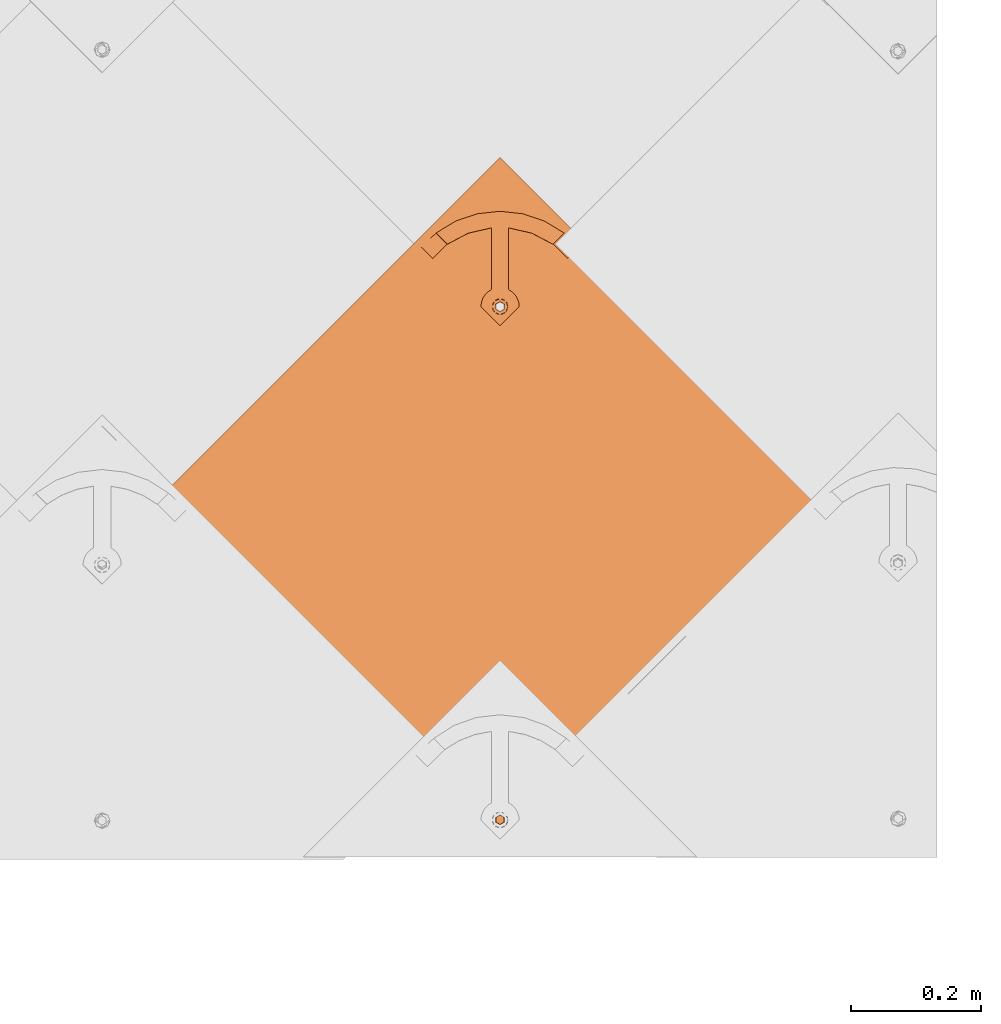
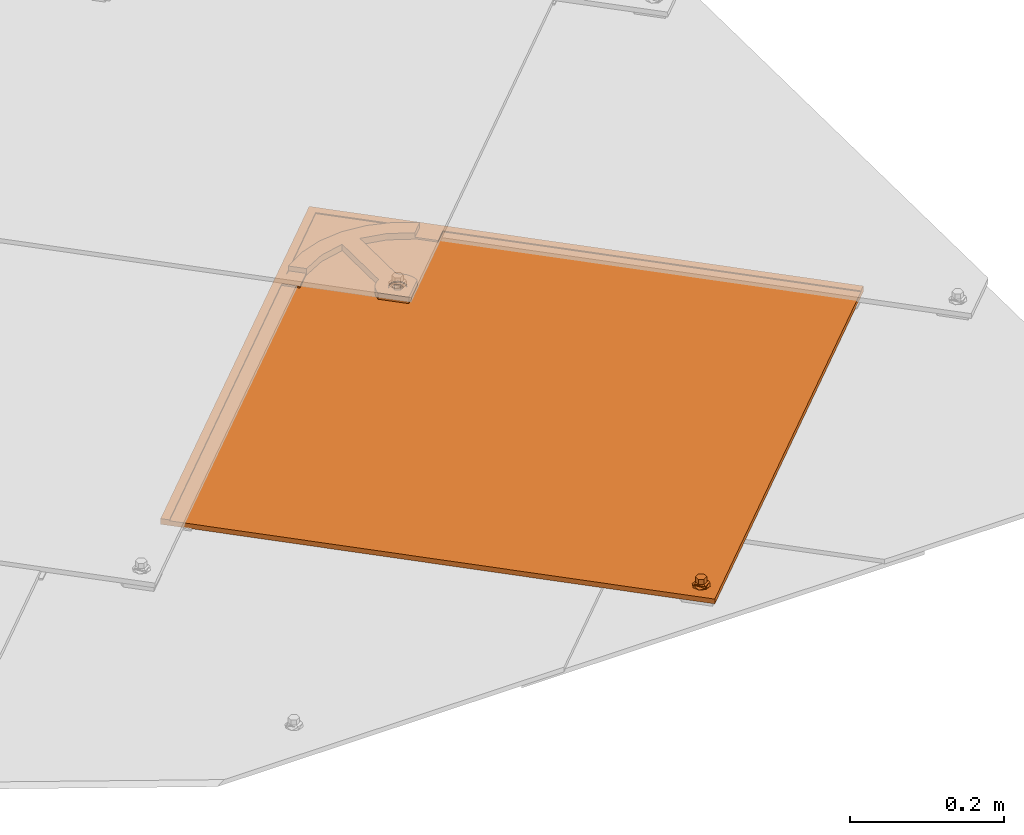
# One storey, part 82 of 151: 1 proxy.
"""IFC2X3 building model written with IfcOpenShell, lengths in millimetres."""

from ifc_helpers import new_model, entity, si_unit, converted_unit, derived_unit, direction, frame, origin, place, context, subcontext, project, spatial, faceted_brep, source, transform, mapped, material, material_list, type_object, type_shapes, element, save


model = new_model("IFC2X3")

# Units and contexts
model_context = context("Model", 3, precision=0.01, world=origin(), true_north=direction((6.12303176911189e-17, 1.0)))
body_context = subcontext(model_context, "Body", "Model", "MODEL_VIEW")
ifc_project = project(units=[si_unit("LENGTHUNIT", "METRE", prefix="MILLI"), si_unit("AREAUNIT", "SQUARE_METRE"), si_unit("VOLUMEUNIT", "CUBIC_METRE"), converted_unit("PLANEANGLEUNIT", "DEGREE", entity("IfcRatioMeasure", 0.0174532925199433), si_unit("PLANEANGLEUNIT", "RADIAN"), dimensions=[0, 0, 0, 0, 0, 0, 0]), si_unit("MASSUNIT", "GRAM", prefix="KILO"), derived_unit("MASSDENSITYUNIT", [(si_unit("MASSUNIT", "GRAM", prefix="KILO"), 1), (si_unit("LENGTHUNIT", "METRE"), -3)]), si_unit("TIMEUNIT", "SECOND"), si_unit("FREQUENCYUNIT", "HERTZ"), si_unit("THERMODYNAMICTEMPERATUREUNIT", "DEGREE_CELSIUS"), derived_unit("THERMALTRANSMITTANCEUNIT", [(si_unit("MASSUNIT", "GRAM", prefix="KILO"), 1), (si_unit("THERMODYNAMICTEMPERATUREUNIT", "KELVIN"), -1), (si_unit("TIMEUNIT", "SECOND"), -3)]), derived_unit("VOLUMETRICFLOWRATEUNIT", [(si_unit("LENGTHUNIT", "METRE"), 3), (si_unit("TIMEUNIT", "SECOND"), -1)]), si_unit("ELECTRICCURRENTUNIT", "AMPERE"), si_unit("ELECTRICVOLTAGEUNIT", "VOLT"), si_unit("POWERUNIT", "WATT"), si_unit("FORCEUNIT", "NEWTON", prefix="KILO"), si_unit("ILLUMINANCEUNIT", "LUX"), si_unit("LUMINOUSFLUXUNIT", "LUMEN"), si_unit("LUMINOUSINTENSITYUNIT", "CANDELA"), derived_unit("USERDEFINED", [(si_unit("MASSUNIT", "GRAM", prefix="KILO"), -1), (si_unit("LENGTHUNIT", "METRE"), -2), (si_unit("TIMEUNIT", "SECOND"), 3), (si_unit("LUMINOUSFLUXUNIT", "LUMEN"), 1)]), derived_unit("LINEARVELOCITYUNIT", [(si_unit("LENGTHUNIT", "METRE"), 1), (si_unit("TIMEUNIT", "SECOND"), -1)]), si_unit("PRESSUREUNIT", "PASCAL"), derived_unit("USERDEFINED", [(si_unit("LENGTHUNIT", "METRE"), -2), (si_unit("MASSUNIT", "GRAM", prefix="KILO"), 1), (si_unit("TIMEUNIT", "SECOND"), -2)])], contexts=[model_context])

# Site, building, storey
site_placement = place(None, origin())
site = spatial("IfcSite", under=ifc_project, at=site_placement, Name="Default", CompositionType="ELEMENT")
building_placement = place(site_placement, origin())
building = spatial("IfcBuilding", under=site, at=building_placement, CompositionType="ELEMENT")
storey_placement = place(building_placement, origin())
storey = spatial("IfcBuildingStorey", under=building, at=storey_placement, Name="Level 1", CompositionType="ELEMENT", Elevation=0.0)

# Proxy
ifc_material_1 = material(Name="Rubber - Sunstyle - Black")
ifc_material_2 = material(Name="Glass - Sunstyle - Tainted Black")
ifc_material_list_1 = material_list([ifc_material_1, ifc_material_2])
ifc_material_list_2 = material_list([ifc_material_1, ifc_material_2])
building_element_proxy_type = type_object("IfcBuildingElementProxyType", Name="Non PV Shingle - Black", PredefinedType="NOTDEFINED", material=ifc_material_list_2)
shared_shape = source(origin(), body_context, "Body", "Brep", [
    faceted_brep([(0.0, -485.159313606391, 4.00636906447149), (-5.77420283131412, -488.492583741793, 4.062193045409), (-5.77420283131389, -488.124274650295, 26.0540623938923), (0.0, -484.791004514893, 25.9982384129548), (-5.77420283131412, -495.159124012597, 4.17384100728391), (-5.7742028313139, -494.790814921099, 26.1657103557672), (0.0, -498.492394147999, 4.2296649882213), (0.0, -498.1240850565, 26.2215343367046), (5.77420283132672, -495.159124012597, 4.17384100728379), (5.77420283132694, -494.790814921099, 26.1657103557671), (5.77420283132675, -488.492583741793, 4.06219304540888), (5.77420283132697, -488.124274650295, 26.0540623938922), (-8.60370416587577, -500.060042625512, 26.2539568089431), (0.0, -503.623313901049, 26.3136327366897), (-12.1674751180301, -491.457544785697, 26.1098863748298), (-8.60370416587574, -482.855046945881, 25.9658159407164), (0.0, -479.291775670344, 25.9061400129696), (8.60370416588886, -482.855046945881, 25.9658159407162), (12.1674751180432, -491.457544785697, 26.1098863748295), (8.60370416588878, -500.060042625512, 26.2539568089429), (-11.3242446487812, -489.162467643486, 28.4227283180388), (-9.75647455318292, -491.386529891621, 30.3502110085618), (0.0, -484.073454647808, 30.9829114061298), (0.0, -482.832957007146, 30.4025647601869), (0.0, -480.675406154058, 29.3931896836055), (0.0, -503.067269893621, 27.5886907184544), (0.0, -502.123693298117, 29.7523951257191), (0.0, -498.67431759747, 31.227439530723), (0.0, -479.804811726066, 27.19910242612), (-6.32324569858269, -495.024101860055, 31.1663074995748), (-6.32324569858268, -487.723670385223, 31.0440434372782), (11.3242446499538, -493.673887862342, 28.4982833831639), (9.84888015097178, -492.460936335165, 30.2713428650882), (6.32324569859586, -487.723670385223, 31.0440434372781), (6.32324569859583, -495.024101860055, 31.1663074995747), (-6.32324569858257, -494.890073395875, 39.1691956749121), (0.0, -498.54028913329, 39.2303277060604), (0.0, -491.239857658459, 39.1080636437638), (-6.32324569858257, -487.589641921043, 39.0469316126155), (6.32324569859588, -494.890073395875, 39.169195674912), (6.32324569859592, -487.589641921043, 39.0469316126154), (0.0, -483.939426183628, 38.9857995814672), (0.0, -491.825853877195, 4.11801702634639)], [[[0, 1, 2, 3]], [[1, 4, 5, 2]], [[4, 6, 7, 5]], [[6, 8, 9, 7]], [[8, 10, 11, 9]], [[10, 0, 3, 11]], [[12, 7, 13]], [[7, 12, 5]], [[14, 5, 12]], [[5, 14, 2]], [[15, 2, 14]], [[3, 2, 15]], [[15, 16, 3]], [[16, 17, 3]], [[11, 3, 17]], [[11, 17, 18]], [[9, 11, 18]], [[18, 19, 9]], [[7, 9, 19]], [[19, 13, 7]], [[20, 14, 12]], [[21, 22, 23, 24]], [[24, 20, 21]], [[25, 20, 12]], [[26, 27, 21]], [[15, 14, 20]], [[12, 13, 25]], [[20, 28, 15]], [[28, 20, 24]], [[21, 27, 29]], [[21, 29, 30]], [[26, 21, 20]], [[20, 25, 26]], [[15, 28, 16]], [[21, 30, 22]], [[31, 18, 17]], [[28, 31, 17]], [[32, 27, 26]], [[26, 31, 32]], [[26, 25, 31]], [[25, 19, 31]], [[17, 16, 28]], [[31, 19, 18]], [[24, 31, 28]], [[33, 34, 32]], [[23, 22, 33]], [[24, 32, 31]], [[27, 32, 34]], [[32, 23, 33]], [[19, 25, 13]], [[32, 24, 23]], [[35, 36, 37]], [[37, 38, 35]], [[36, 39, 37]], [[40, 37, 39]], [[37, 40, 41]], [[37, 41, 38]], [[42, 6, 4]], [[4, 1, 42]], [[1, 0, 42]], [[42, 8, 6]], [[0, 10, 42]], [[8, 42, 10]], [[22, 30, 38, 41]], [[30, 29, 35, 38]], [[29, 27, 36, 35]], [[27, 34, 39, 36]], [[34, 33, 40, 39]], [[33, 22, 41, 40]]]),
    faceted_brep([(0.0, 284.789208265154, 20.3195200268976), (0.0, 289.288576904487, 20.2441667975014), (-8.60370416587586, 288.352479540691, 20.259844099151), (8.60370416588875, 288.352479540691, 20.2598440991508), (6.64022859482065, 293.121777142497, 20.1799702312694), (12.1674751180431, 296.954977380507, 20.1157736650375), (6.64022859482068, 300.788177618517, 20.0515770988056), (8.60370416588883, 305.557475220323, 19.9717032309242), (0.0, 304.621377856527, 19.9873805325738), (0.0, 309.12074649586, 19.9120273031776), (-8.60370416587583, 305.557475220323, 19.9717032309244), (-6.64022859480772, 300.788177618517, 20.0515770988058), (-12.1674751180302, 296.954977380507, 20.1157736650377), (-6.64022859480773, 293.121777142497, 20.1799702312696), (-6.6402282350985, 300.520254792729, 4.05382046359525), (0.0, 304.35345482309, 3.9896239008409), (-6.64022823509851, 292.853854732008, 4.18221358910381), (0.0, 289.020654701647, 4.24641015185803), (6.64022823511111, 292.853854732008, 4.18221358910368), (6.64022823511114, 300.520254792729, 4.05382046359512), (-8.60370416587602, 288.084556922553, 4.26208746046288), (0.0, 284.521285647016, 4.32176338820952), (-12.1674751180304, 296.687054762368, 4.11801702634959), (-8.603704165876, 305.289552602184, 3.97394659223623), (0.0, 308.852823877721, 3.91427066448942), (8.60370416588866, 305.289552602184, 3.97394659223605), (12.167475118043, 296.687054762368, 4.11801702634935), (8.60370416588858, 288.084556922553, 4.26208746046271)], [[[0, 1, 2]], [[1, 0, 3]], [[3, 4, 1]], [[4, 3, 5]], [[6, 4, 5]], [[5, 7, 6]], [[7, 8, 6]], [[8, 7, 9]], [[8, 9, 10]], [[10, 11, 8]], [[12, 11, 10]], [[2, 13, 12]], [[12, 13, 11]], [[13, 2, 1]], [[8, 11, 14, 15]], [[11, 13, 16, 14]], [[13, 1, 17, 16]], [[1, 4, 18, 17]], [[4, 6, 19, 18]], [[6, 8, 15, 19]], [[20, 17, 21]], [[17, 20, 16]], [[22, 16, 20]], [[14, 16, 22]], [[23, 14, 22]], [[15, 14, 23]], [[23, 24, 15]], [[24, 25, 15]], [[19, 15, 25]], [[19, 25, 26]], [[26, 18, 19]], [[26, 27, 18]], [[17, 18, 27]], [[27, 21, 17]], [[24, 23, 10, 9]], [[10, 23, 22, 12]], [[20, 21, 0, 2]], [[20, 2, 12, 22]], [[21, 27, 3, 0]], [[3, 27, 26, 5]], [[25, 24, 9, 7]], [[25, 7, 5, 26]]]),
    faceted_brep([(518.347125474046, -8.50591218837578, 16.4460771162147), (526.831811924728, -0.0212257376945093, 16.3039797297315), (526.831811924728, 0.00389200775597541, 17.8037694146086), (518.347125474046, -8.48079444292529, 17.9458668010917), (0.000322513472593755, 509.695546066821, 7.76749207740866), (-518.346480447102, -8.50591218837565, 16.4460771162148), (-526.831166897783, -0.021225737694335, 16.3039797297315), (0.000322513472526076, 526.662539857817, 7.48333714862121), (0.000322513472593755, 526.687657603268, 8.98312683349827), (-526.831166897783, 0.00389200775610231, 17.8037694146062), (-518.346480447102, -8.48079444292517, 17.9458668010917), (0.000322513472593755, 509.720663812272, 9.26728176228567)], [[[0, 1, 2, 3]], [[1, 0, 4, 5, 6, 7]], [[2, 1, 7, 8]], [[3, 2, 8, 9, 10, 11]], [[0, 3, 11, 4]], [[5, 10, 9, 6]], [[8, 7, 6, 9]], [[4, 11, 10, 5]]]),
    faceted_brep([(0.000322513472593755, 526.662539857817, 7.48333714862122), (-3.10582854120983, 308.054627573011, 11.1444757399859), (0.0, 308.46346032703, 11.1376288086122), (-6.0, 306.855990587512, 11.1645499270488), (3.10582854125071, 308.054627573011, 11.1444757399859), (6.0, 306.855990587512, 11.1645499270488), (8.4852813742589, 304.949234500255, 11.1964833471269), (10.3923048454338, 302.464301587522, 11.2380997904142), (-8.48528137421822, 304.949234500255, 11.1964833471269), (-10.3923048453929, 302.464301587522, 11.2380997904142), (-11.5911099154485, 299.570535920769, 11.2865631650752), (-526.831166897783, -0.0212257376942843, 16.3039797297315), (11.5911099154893, 299.570535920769, 11.2865631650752), (526.831811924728, -0.021225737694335, 16.3039797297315), (-12.0, 296.465142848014, 11.3385707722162), (-11.5911099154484, 293.359749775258, 11.3905783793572), (-10.392304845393, 290.465984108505, 11.4390417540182), (-8.48528137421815, 287.981051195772, 11.4806581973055), (-6.0, 286.074295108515, 11.5125916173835), (-3.10582854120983, 284.875658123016, 11.5326658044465), (-2.07055236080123, -483.623303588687, 24.4031112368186), (-4.0, -484.422394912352, 24.4164940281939), (-5.65685424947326, -485.693565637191, 24.4377829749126), (-6.92820323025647, -487.350187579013, 24.4655272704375), (-7.72740661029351, -489.279364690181, 24.4978361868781), (-8.0, -491.349626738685, 24.5325079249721), (-7.72740661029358, -493.419888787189, 24.5671796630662), (0.000322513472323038, -526.704991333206, 25.1246223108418), (-6.92820323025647, -495.349065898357, 24.5994885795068), (-5.65685424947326, -497.005687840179, 24.6272328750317), (-4.0, -498.276858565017, 24.6485218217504), (-2.0705523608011, -499.075949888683, 24.6619046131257), (0.0, -499.348505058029, 24.6664692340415), (2.07055236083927, -499.075949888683, 24.6619046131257), (4.0, -498.276858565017, 24.6485218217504), (5.65685424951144, -497.005687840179, 24.6272328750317), (6.92820323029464, -495.349065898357, 24.5994885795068), (7.72740661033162, -493.419888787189, 24.5671796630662), (12.0, 296.465142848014, 11.3385707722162), (11.5911099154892, 293.359749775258, 11.3905783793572), (10.3923048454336, 290.465984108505, 11.4390417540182), (8.4852813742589, 287.981051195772, 11.4806581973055), (6.0, 286.074295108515, 11.5125916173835), (3.10582854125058, 284.875658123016, 11.5326658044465), (2.07055236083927, -483.623303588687, 24.4031112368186), (4.0, -484.422394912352, 24.4164940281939), (5.65685424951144, -485.69356563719, 24.4377829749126), (8.0, -491.349626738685, 24.5325079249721), (7.72740661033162, -489.279364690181, 24.4978361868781), (6.92820323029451, -487.350187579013, 24.4655272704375), (0.0, 284.466825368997, 11.5395127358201), (0.0, -483.350748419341, 24.3985466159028), (-526.831166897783, -0.146814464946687, 8.80503130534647), (-6.92820323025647, -487.475776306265, 16.9665788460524), (-7.72740661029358, -489.404953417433, 16.9988877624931), (-5.65685424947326, -485.819154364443, 16.9388345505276), (-8.0, -491.475215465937, 17.0335595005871), (-7.72740661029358, -493.545477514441, 17.0682312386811), (0.000322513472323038, -526.830580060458, 17.6256738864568), (-4.0, -484.547983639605, 16.9175456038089), (-2.07055236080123, -483.748892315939, 16.9041628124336), (-3.10582854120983, 284.750069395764, 4.03371738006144), (-6.0, 285.948706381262, 4.01364319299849), (-8.48528137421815, 287.85546246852, 3.98170977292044), (-10.392304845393, 290.340395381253, 3.94009332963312), (-11.5911099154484, 293.234161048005, 3.89162995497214), (-12.0, 296.339554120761, 3.83962234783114), (-11.5911099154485, 299.444947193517, 3.78761474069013), (0.000322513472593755, 526.536951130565, -0.0156112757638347), (-10.3923048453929, 302.338712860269, 3.73915136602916), (-8.48528137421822, 304.823645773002, 3.69753492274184), (-6.0, 306.73040186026, 3.66560150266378), (-3.10582854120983, 307.929038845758, 3.64552731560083), (0.0, 308.337871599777, 3.63868038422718), (3.10582854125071, 307.929038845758, 3.64552731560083), (6.0, 306.73040186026, 3.66560150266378), (8.4852813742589, 304.823645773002, 3.69753492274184), (10.3923048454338, 302.338712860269, 3.73915136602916), (11.5911099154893, 299.444947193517, 3.78761474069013), (526.831811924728, -0.146814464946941, 8.80503130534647), (7.72740661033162, -493.545477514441, 17.0682312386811), (8.0, -491.475215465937, 17.0335595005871), (7.72740661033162, -489.404953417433, 16.9988877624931), (6.92820323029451, -487.475776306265, 16.9665788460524), (5.65685424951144, -485.819154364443, 16.9388345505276), (4.0, -484.547983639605, 16.9175456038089), (2.07055236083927, -483.748892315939, 16.9041628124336), (3.10582854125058, 284.750069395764, 4.03371738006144), (6.0, 285.948706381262, 4.01364319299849), (12.0, 296.339554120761, 3.83962234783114), (11.5911099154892, 293.234161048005, 3.89162995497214), (10.3923048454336, 290.340395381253, 3.94009332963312), (8.4852813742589, 287.85546246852, 3.98170977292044), (0.0, 284.341236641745, 4.04056431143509), (0.0, -483.476337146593, 16.8995981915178), (-6.92820323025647, -495.474654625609, 17.1005401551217), (-5.65685424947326, -497.131276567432, 17.1282844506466), (-4.0, -498.40244729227, 17.1495733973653), (-2.0705523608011, -499.201538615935, 17.1629561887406), (0.0, -499.474093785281, 17.1675208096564), (2.07055236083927, -499.201538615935, 17.1629561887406), (4.0, -498.40244729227, 17.1495733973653), (5.65685424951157, -497.131276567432, 17.1282844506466), (6.92820323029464, -495.474654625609, 17.1005401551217)], [[[0, 1, 2]], [[1, 0, 3]], [[0, 2, 4]], [[4, 5, 0]], [[5, 6, 0]], [[0, 6, 7]], [[8, 3, 0]], [[9, 8, 0]], [[9, 0, 10]], [[10, 0, 11]], [[12, 0, 7]], [[12, 13, 0]], [[11, 14, 10]], [[14, 11, 15]], [[16, 15, 11]], [[16, 11, 17]], [[18, 17, 11]], [[11, 19, 18]], [[19, 11, 20]], [[21, 20, 11]], [[11, 22, 21]], [[22, 11, 23]], [[23, 11, 24]], [[25, 24, 11]], [[25, 11, 26]], [[26, 11, 27]], [[27, 28, 26]], [[29, 28, 27]], [[30, 29, 27]], [[31, 30, 27]], [[27, 32, 31]], [[32, 27, 33]], [[34, 33, 27]], [[34, 27, 35]], [[36, 35, 27]], [[37, 36, 27]], [[37, 27, 13]], [[12, 38, 13]], [[39, 13, 38]], [[13, 39, 40]], [[13, 40, 41]], [[41, 42, 13]], [[42, 43, 13]], [[13, 43, 44]], [[45, 13, 44]], [[46, 13, 45]], [[47, 37, 13]], [[48, 47, 13]], [[49, 48, 13]], [[46, 49, 13]], [[20, 50, 19]], [[51, 50, 20]], [[44, 50, 51]], [[43, 50, 44]], [[52, 53, 54]], [[53, 52, 55]], [[52, 54, 56]], [[56, 57, 52]], [[52, 57, 58]], [[59, 55, 52]], [[60, 59, 52]], [[60, 52, 61]], [[61, 52, 62]], [[63, 62, 52]], [[64, 63, 52]], [[65, 64, 52]], [[66, 65, 52]], [[66, 52, 67]], [[52, 68, 67]], [[69, 67, 68]], [[70, 69, 68]], [[68, 71, 70]], [[71, 68, 72]], [[72, 68, 73]], [[74, 73, 68]], [[74, 68, 75]], [[76, 75, 68]], [[68, 77, 76]], [[77, 68, 78]], [[68, 79, 78]], [[58, 80, 79]], [[81, 79, 80]], [[81, 82, 79]], [[82, 83, 79]], [[84, 79, 83]], [[79, 84, 85]], [[85, 86, 79]], [[87, 79, 86]], [[87, 88, 79]], [[89, 78, 79]], [[79, 90, 89]], [[90, 79, 91]], [[92, 91, 79]], [[92, 79, 88]], [[93, 60, 61]], [[93, 86, 94]], [[94, 60, 93]], [[87, 86, 93]], [[58, 57, 95]], [[96, 58, 95]], [[96, 97, 58]], [[97, 98, 58]], [[99, 58, 98]], [[58, 99, 100]], [[58, 100, 101]], [[101, 102, 58]], [[102, 103, 58]], [[103, 80, 58]], [[11, 0, 68, 52]], [[27, 11, 52, 58]], [[13, 27, 58, 79]], [[0, 13, 79, 68]], [[25, 56, 54, 24]], [[24, 54, 53, 23]], [[21, 22, 55, 59]], [[55, 22, 23, 53]], [[20, 21, 59, 60]], [[20, 60, 94, 51]], [[51, 94, 86, 44]], [[44, 86, 85, 45]], [[49, 46, 84, 83]], [[84, 46, 45, 85]], [[48, 49, 83, 82]], [[48, 82, 81, 47]], [[47, 81, 80, 37]], [[37, 80, 103, 36]], [[34, 35, 102, 101]], [[102, 35, 36, 103]], [[33, 34, 101, 100]], [[33, 100, 99, 32]], [[32, 99, 98, 31]], [[31, 98, 97, 30]], [[28, 29, 96, 95]], [[96, 29, 30, 97]], [[26, 28, 95, 57]], [[26, 57, 56, 25]], [[14, 66, 67, 10]], [[10, 67, 69, 9]], [[3, 8, 70, 71]], [[70, 8, 9, 69]], [[1, 3, 71, 72]], [[1, 72, 73, 2]], [[2, 73, 74, 4]], [[4, 74, 75, 5]], [[7, 6, 76, 77]], [[76, 6, 5, 75]], [[12, 7, 77, 78]], [[12, 78, 89, 38]], [[38, 89, 90, 39]], [[39, 90, 91, 40]], [[42, 41, 92, 88]], [[40, 91, 92, 41]], [[87, 43, 42, 88]], [[43, 87, 93, 50]], [[50, 93, 61, 19]], [[19, 61, 62, 18]], [[16, 17, 63, 64]], [[63, 17, 18, 62]], [[15, 16, 64, 65]], [[15, 65, 66, 14]]]),
    faceted_brep([(-103.640919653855, 371.082989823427, 12.5892580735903), (-81.5635806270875, 393.15723338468, 12.2195694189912), (-98.1147183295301, 409.705441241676, 11.9424281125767), (-106.2656930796, 403.014562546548, 12.0544836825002), (-113.962762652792, 395.806279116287, 12.1752044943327), (-121.16572423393, 388.605337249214, 12.295802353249), (121.446435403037, 388.886009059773, 12.2911017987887), (110.715435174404, 399.614000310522, 12.1114346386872), (104.744439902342, 405.287275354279, 12.0164213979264), (98.4920378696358, 410.648923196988, 11.9266271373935), (98.074476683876, 410.231479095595, 11.933618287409), (98.234751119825, 410.108922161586, 11.9356708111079), (98.3948723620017, 409.986165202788, 11.9377266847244), (81.6917048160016, 393.285339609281, 12.2174239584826), (103.769043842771, 371.211096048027, 12.5871126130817), (-23.2046504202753, 315.000563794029, 21.029550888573), (-8.48528137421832, 305.451589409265, 21.1894724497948), (-18.7041061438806, 319.633569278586, 20.951959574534), (-10.392304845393, 302.966656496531, 21.2310888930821), (-26.5842195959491, 309.496413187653, 21.1217317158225), (-11.5911099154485, 300.072890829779, 21.2795522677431), (-28.6795527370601, 303.387013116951, 21.2240489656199), (-12.0, 296.967497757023, 21.3315598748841), (-29.3894280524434, 296.967497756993, 21.3315598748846), (-11.5911099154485, 293.862104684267, 21.3835674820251), (-10.392304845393, 290.968339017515, 21.4320308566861), (-8.48528137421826, 288.483406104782, 21.4736472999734), (0.0, 267.58219039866, 21.8236906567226), (-6.0, 286.576650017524, 21.5055807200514), (-3.10582854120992, 285.378013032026, 21.5256549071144), (0.0, 284.969180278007, 21.532501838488), (3.10582854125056, 285.378013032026, 21.5256549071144), (6.0, 286.576650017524, 21.5055807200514), (8.48528137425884, 288.483406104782, 21.4736472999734), (29.389428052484, 296.967497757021, 21.3315598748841), (10.3923048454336, 290.968339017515, 21.4320308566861), (11.5911099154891, 293.862104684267, 21.3835674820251), (12.0, 296.967497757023, 21.3315598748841), (28.6795527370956, 303.387013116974, 21.2240489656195), (11.5911099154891, 300.072890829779, 21.2795522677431), (26.5842195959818, 309.49641318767, 21.1217317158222), (10.3923048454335, 302.966656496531, 21.2310888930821), (23.2046504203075, 315.000563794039, 21.0295508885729), (8.48528137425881, 305.451589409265, 21.1894724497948), (18.7041061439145, 319.633569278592, 20.9519595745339), (6.0, 307.358345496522, 21.1575390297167), (13.3000000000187, 323.171617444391, 20.8927060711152), (3.10582854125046, 308.55698248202, 21.1374648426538), (0.0, 308.965815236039, 21.1306179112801), (-13.2999999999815, 323.171617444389, 20.8927060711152), (-13.2999999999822, 418.050603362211, 19.3037191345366), (13.3000000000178, 418.050603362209, 19.3037191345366), (0.0, 443.522216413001, 18.8771329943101), (34.9852699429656, 439.689674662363, 18.9413185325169), (48.8881158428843, 409.917561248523, 19.4399273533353), (68.3106161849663, 428.373889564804, 19.1308297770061), (81.1868897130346, 392.906184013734, 19.7248255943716), (98.3948723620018, 410.11175393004, 19.4366751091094), (-34.9852699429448, 439.689674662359, 18.941318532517), (-48.8881158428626, 409.917561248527, 19.4399273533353), (-68.3106161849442, 428.373889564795, 19.1308297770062), (-81.1868897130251, 392.906184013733, 19.7248255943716), (-98.3948723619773, 410.111753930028, 19.4366751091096), (-6.0, 307.358345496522, 21.1575390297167), (-3.10582854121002, 308.55698248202, 21.1374648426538), (0.0, 267.414738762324, 11.8250927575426), (0.0, 284.80172864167, 11.533903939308), (3.10582854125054, 285.210561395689, 11.5270570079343), (-3.10582854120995, 285.210561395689, 11.5270570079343), (6.0, 286.409198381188, 11.5069828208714), (8.48528137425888, 288.315954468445, 11.4750494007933), (29.389428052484, 296.800046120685, 11.332961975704), (-6.0, 286.409198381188, 11.5069828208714), (-8.48528137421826, 288.315954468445, 11.4750494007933), (-29.3894280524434, 296.800046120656, 11.3329619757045), (-10.392304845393, 290.800887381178, 11.433432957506), (-11.5911099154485, 293.694653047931, 11.384969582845), (-12.0, 296.800046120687, 11.332961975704), (-28.6795527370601, 303.219561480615, 11.2254510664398), (-11.5911099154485, 299.905439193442, 11.280954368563), (-26.5842195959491, 309.328961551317, 11.1231338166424), (-10.392304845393, 302.799204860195, 11.232490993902), (-23.2046504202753, 314.833112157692, 11.030952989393), (-8.48528137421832, 305.284137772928, 11.1908745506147), (-18.7041061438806, 319.466117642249, 10.9533616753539), (-6.0, 307.190893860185, 11.1589411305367), (-13.2999999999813, 323.004165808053, 10.8941081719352), (-3.10582854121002, 308.389530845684, 11.1388669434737), (0.0, 308.798363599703, 11.1320200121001), (13.3000000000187, 323.004165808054, 10.8941081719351), (13.3000000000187, 417.883151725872, 9.30512123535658), (-13.2999999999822, 417.883151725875, 9.30512123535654), (-0.199443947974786, 443.35464169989, 8.87853715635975), (-35.1150635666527, 439.493384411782, 8.94320360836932), (-48.8881158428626, 409.75010961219, 9.44132945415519), (-68.3708539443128, 428.178324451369, 9.13270270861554), (-81.5627248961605, 393.11622608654, 9.71990561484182), (-81.1868897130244, 392.738732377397, 9.72622769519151), (-98.1143736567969, 409.663842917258, 9.44277420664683), (-106.2656930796, 402.972699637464, 9.5548342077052), (-103.640919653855, 371.041126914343, 10.0896085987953), (-113.962762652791, 395.764416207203, 9.67555501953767), (-121.16572423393, 388.56347434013, 9.79615287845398), (-98.3948723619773, 409.944302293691, 9.43807720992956), (34.7256001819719, 439.579582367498, 8.94176000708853), (48.8881158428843, 409.750109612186, 9.44132945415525), (68.0092206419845, 428.346649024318, 9.12988369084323), (81.6917048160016, 393.243476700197, 9.71777448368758), (98.0744766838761, 410.189616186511, 9.43396881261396), (104.744439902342, 405.245412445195, 9.51677192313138), (98.4920378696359, 410.607060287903, 9.42697766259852), (110.715435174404, 399.572137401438, 9.61178516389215), (103.769043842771, 371.169233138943, 10.0874631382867), (121.446435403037, 388.844146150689, 9.7914523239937), (81.1868897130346, 392.738732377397, 9.7262276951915), (3.10582854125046, 308.389530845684, 11.1388669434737), (6.0, 307.190893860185, 11.1589411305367), (18.7041061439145, 319.466117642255, 10.9533616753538), (8.48528137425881, 305.284137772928, 11.1908745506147), (23.2046504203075, 314.833112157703, 11.0309529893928), (10.3923048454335, 302.799204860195, 11.232490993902), (26.5842195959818, 309.328961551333, 11.1231338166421), (11.5911099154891, 299.905439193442, 11.280954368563), (28.6795527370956, 303.219561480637, 11.2254510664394), (12.0, 296.800046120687, 11.332961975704), (10.3923048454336, 290.800887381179, 11.433432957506), (11.5911099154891, 293.694653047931, 11.384969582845)], [[[0, 1, 2, 3, 4, 5]], [[6, 7, 8, 9, 10, 11, 12, 13, 14]], [[15, 16, 17]], [[18, 16, 15]], [[19, 18, 15]], [[20, 18, 19]], [[19, 21, 20]], [[21, 22, 20]], [[22, 21, 23]], [[24, 22, 23]], [[25, 24, 23]], [[25, 23, 26]], [[23, 27, 26]], [[28, 26, 27]], [[28, 27, 29]], [[27, 30, 29]], [[30, 27, 31]], [[31, 27, 32]], [[33, 32, 27]], [[33, 27, 34]], [[34, 35, 33]], [[36, 35, 34]], [[37, 36, 34]], [[34, 38, 37]], [[39, 37, 38]], [[38, 40, 39]], [[40, 41, 39]], [[41, 40, 42]], [[43, 41, 42]], [[42, 44, 43]], [[45, 43, 44]], [[44, 46, 45]], [[45, 46, 47]], [[47, 46, 48]], [[46, 49, 48]], [[46, 50, 49]], [[46, 51, 50]], [[52, 50, 51]], [[51, 53, 52]], [[51, 54, 53]], [[53, 54, 55]], [[54, 56, 55]], [[56, 57, 55]], [[58, 50, 52]], [[50, 58, 59]], [[60, 59, 58]], [[60, 61, 59]], [[61, 60, 62]], [[63, 49, 17]], [[63, 64, 49]], [[49, 64, 48]], [[63, 17, 16]], [[65, 66, 67]], [[66, 65, 68]], [[65, 67, 69]], [[69, 70, 65]], [[65, 70, 71]], [[72, 68, 65]], [[72, 65, 73]], [[73, 65, 74]], [[74, 75, 73]], [[75, 74, 76]], [[76, 74, 77]], [[78, 77, 74]], [[79, 77, 78]], [[78, 80, 79]], [[79, 80, 81]], [[80, 82, 81]], [[83, 81, 82]], [[84, 83, 82]], [[84, 85, 83]], [[86, 85, 84]], [[86, 87, 85]], [[88, 87, 86]], [[89, 88, 86]], [[89, 86, 90]], [[91, 90, 86]], [[91, 92, 90]], [[92, 91, 93]], [[94, 93, 91]], [[93, 94, 95]], [[94, 96, 95]], [[94, 97, 96]], [[98, 95, 96]], [[99, 98, 96]], [[96, 100, 99]], [[99, 100, 101]], [[102, 101, 100]], [[95, 98, 103]], [[104, 90, 92]], [[90, 104, 105]], [[106, 105, 104]], [[107, 105, 106]], [[106, 108, 107]], [[108, 109, 107]], [[109, 108, 110]], [[111, 107, 109]], [[111, 112, 107]], [[113, 112, 111]], [[107, 114, 105]], [[115, 88, 89]], [[116, 115, 89]], [[116, 89, 117]], [[117, 118, 116]], [[119, 118, 117]], [[119, 120, 118]], [[119, 121, 120]], [[121, 122, 120]], [[122, 121, 123]], [[71, 124, 123]], [[124, 122, 123]], [[71, 70, 125]], [[125, 126, 71]], [[126, 124, 71]], [[49, 50, 91, 86]], [[17, 49, 86, 84]], [[15, 17, 84, 82]], [[82, 80, 19, 15]], [[21, 19, 80, 78]], [[23, 21, 78, 74]], [[27, 23, 74, 65]], [[0, 5, 102, 100]], [[34, 27, 65, 71]], [[6, 14, 112, 113]], [[38, 34, 71, 123]], [[40, 38, 123, 121]], [[121, 119, 42, 40]], [[44, 42, 119, 117]], [[46, 44, 117, 89]], [[51, 46, 89, 90]], [[11, 10, 57]], [[108, 106, 10]], [[10, 106, 55]], [[12, 11, 57]], [[57, 10, 55]], [[106, 53, 55]], [[106, 104, 53]], [[52, 104, 92]], [[92, 93, 58]], [[95, 60, 93]], [[52, 92, 58]], [[95, 62, 60]], [[60, 58, 93]], [[62, 95, 103]], [[104, 52, 53]], [[22, 77, 79, 20]], [[20, 79, 81, 18]], [[63, 16, 83, 85]], [[81, 83, 16, 18]], [[64, 63, 85, 87]], [[88, 48, 64, 87]], [[47, 115, 116, 45]], [[45, 116, 118, 43]], [[39, 41, 120, 122]], [[118, 120, 41, 43]], [[37, 39, 122, 124]], [[47, 48, 88, 115]], [[37, 124, 126, 36]], [[36, 126, 125, 35]], [[32, 33, 70, 69]], [[125, 70, 33, 35]], [[31, 32, 69, 67]], [[66, 30, 31, 67]], [[29, 68, 72, 28]], [[28, 72, 73, 26]], [[24, 25, 75, 76]], [[73, 75, 25, 26]], [[22, 24, 76, 77]], [[29, 30, 66, 68]], [[7, 6, 113, 111]], [[7, 111, 109, 8]], [[109, 110, 9, 8]], [[14, 13, 107, 112]], [[1, 0, 100, 96]], [[2, 98, 3]], [[3, 98, 99]], [[99, 101, 4, 3]], [[5, 4, 101, 102]], [[97, 94, 59, 61]], [[91, 50, 59, 94]], [[90, 105, 54, 51]], [[114, 56, 54, 105]], [[10, 9, 110, 108]], [[62, 2, 1]], [[2, 62, 103]], [[61, 62, 1, 97]], [[103, 98, 2]], [[96, 97, 1]], [[57, 56, 114, 107, 13, 12]]]),
])
type_shapes(building_element_proxy_type, [shared_shape])
proxy_placement = place(storey_placement, frame((-16541.462554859, 15071.2530167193, 0.0)))
element("IfcBuildingElementProxy", 1, at=proxy_placement, inside=storey, type_object=building_element_proxy_type, material=ifc_material_list_1, Name="Roofing_Panels_SunStyle_Tile_Non-PV-Shingle:Non PV Shingle - Black", ObjectType="Roofing_Panels_SunStyle_Tile_Non-PV-Shingle:Non PV Shingle - Black", context=body_context, shape_type="MappedRepresentation", body=[
    mapped(shared_shape, transform((0.0, 0.0, 0.0), scale=1.0)),
])

save(model, "model.ifc")
